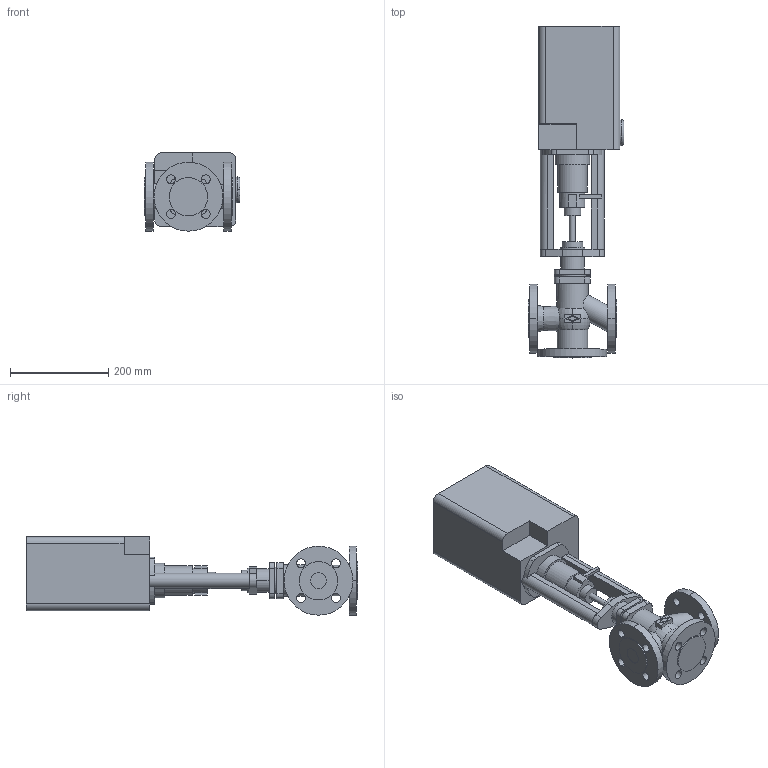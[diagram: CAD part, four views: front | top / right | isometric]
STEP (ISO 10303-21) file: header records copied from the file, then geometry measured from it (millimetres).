
FILE_DESCRIPTION(('OneSpaceDesigner STEP Export'),'2;1');
FILE_NAME('c000002378.stp','2006-09-19T11:51:36',(''),(''),'OneSpace Designer STEP processor for AP214 (Solid Model)','OneSpace Designer 13.20A 18-Aug-2005 (C) CoCreate Software GmbH','');
FILE_SCHEMA(('AUTOMOTIVE_DESIGN { 1 0 10303 214 1 1 1 1 }'));
Length unit declared in the file: millimetre
Products named in the file (2): 1; 2
Bounding box: 194.6 x 674 x 159 mm (x, y, z)
Volume: 8354087.2 mm3; surface area: 460803.4 mm2
Topology: 2 solids, 2 shells, 199 faces, 509 edges, 338 vertices
Faces by surface type: plane 94, cylinder 92, torus 9, cone 4
Entity records: 5734 total; most frequent: CARTESIAN_POINT 1136, ORIENTED_EDGE 1018, DIRECTION 859, EDGE_CURVE 509, VERTEX_POINT 338, AXIS2_PLACEMENT_3D 299, VECTOR 261, LINE 261
